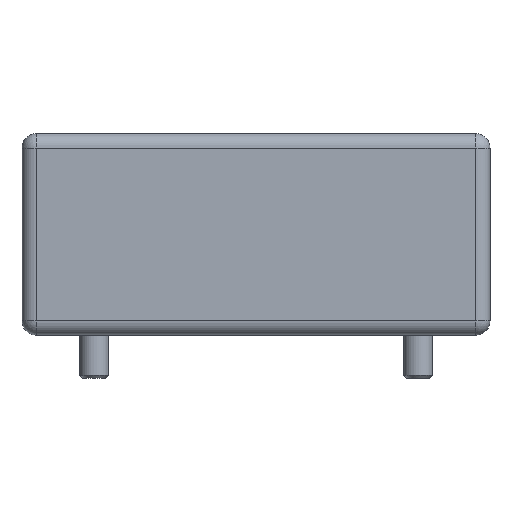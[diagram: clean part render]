
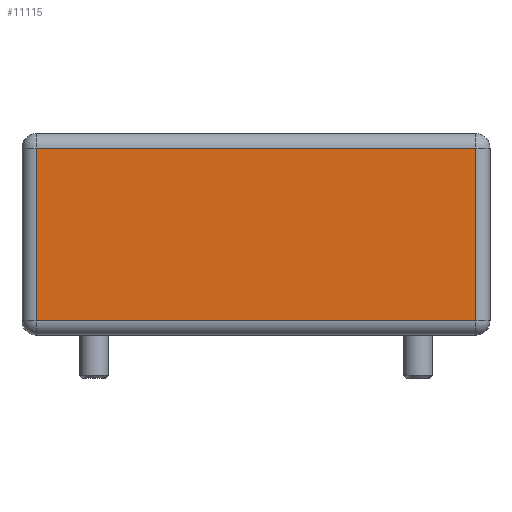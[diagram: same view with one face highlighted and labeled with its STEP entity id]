
A CAD part, front view. The second image highlights one B-rep face of the part: STEP entity #11115.
In plain terms, the highlighted planar face has unit normal (0, -1, 0).
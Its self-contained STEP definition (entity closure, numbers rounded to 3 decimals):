
#563=PLANE('',#11954);
#1025=FACE_OUTER_BOUND('',#1651,.T.);
#1651=EDGE_LOOP('',(#8923,#8924,#8925,#8926));
#2671=LINE('',#17828,#3776);
#2672=LINE('',#17830,#3777);
#2678=LINE('',#17854,#3783);
#2680=LINE('',#17857,#3785);
#3776=VECTOR('',#14017,10.);
#3777=VECTOR('',#14020,10.);
#3783=VECTOR('',#14056,10.);
#3785=VECTOR('',#14060,10.);
#5199=VERTEX_POINT('',#17801);
#5200=VERTEX_POINT('',#17806);
#5202=VERTEX_POINT('',#17813);
#5205=VERTEX_POINT('',#17823);
#6544=EDGE_CURVE('',#5202,#5205,#2671,.T.);
#6545=EDGE_CURVE('',#5205,#5200,#2672,.T.);
#6557=EDGE_CURVE('',#5199,#5202,#2678,.T.);
#6559=EDGE_CURVE('',#5200,#5199,#2680,.T.);
#8923=ORIENTED_EDGE('',*,*,#6544,.F.);
#8924=ORIENTED_EDGE('',*,*,#6557,.F.);
#8925=ORIENTED_EDGE('',*,*,#6559,.F.);
#8926=ORIENTED_EDGE('',*,*,#6545,.F.);
#11115=ADVANCED_FACE('',(#1025),#563,.T.);
#11954=AXIS2_PLACEMENT_3D('',#17858,#14061,#14062);
#14017=DIRECTION('',(-1.,0.,0.));
#14020=DIRECTION('',(0.,0.,1.));
#14056=DIRECTION('',(0.,0.,-1.));
#14060=DIRECTION('',(1.,0.,0.));
#14061=DIRECTION('center_axis',(0.,-1.,0.));
#14062=DIRECTION('ref_axis',(1.,0.,0.));
#17801=CARTESIAN_POINT('',(30.5,-25.3,26.));
#17806=CARTESIAN_POINT('',(-30.5,-25.3,26.));
#17813=CARTESIAN_POINT('',(30.5,-25.3,2.));
#17823=CARTESIAN_POINT('',(-30.5,-25.3,2.));
#17828=CARTESIAN_POINT('',(-16.25,-25.3,2.));
#17830=CARTESIAN_POINT('',(-30.5,-25.3,0.));
#17854=CARTESIAN_POINT('',(30.5,-25.3,0.));
#17857=CARTESIAN_POINT('',(-16.25,-25.3,26.));
#17858=CARTESIAN_POINT('Origin',(-32.5,-25.3,0.));
